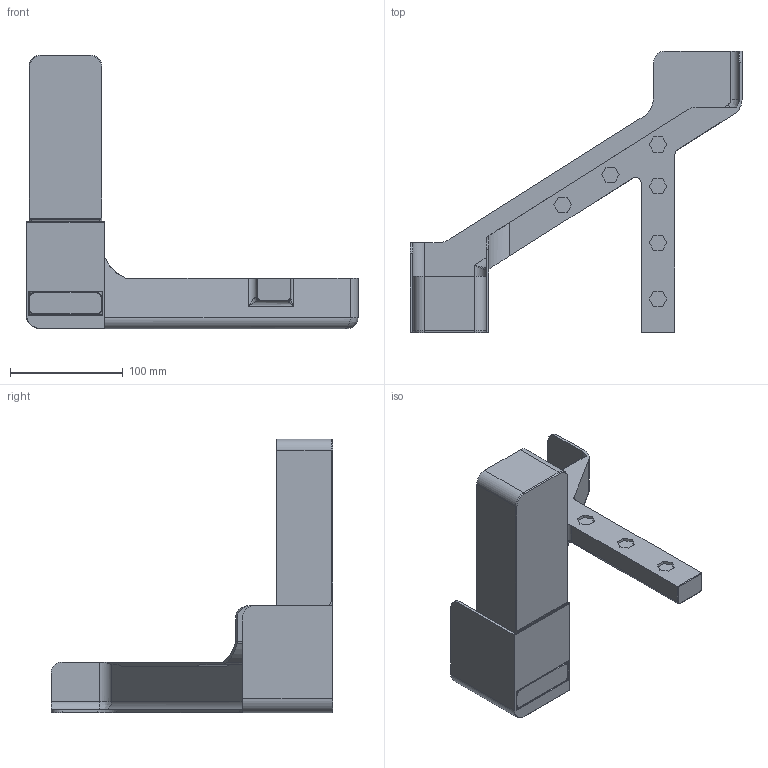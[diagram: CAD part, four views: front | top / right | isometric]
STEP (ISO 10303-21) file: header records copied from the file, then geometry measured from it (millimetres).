
FILE_DESCRIPTION(/* description */ (''),/* implementation_level */ '2;1');
FILE_NAME(/* name */ 'Poop Shute&Box.step',/* time_stamp */ '2025-12-08T11:50:39+09:00',/* author */ (''),/* organization */ (''),/* preprocessor_version */ 'ST-DEVELOPER v20.1',/* originating_system */ 'Autodesk Translation Framework v14.21.0.0',/* authorisation */ '');
FILE_SCHEMA (('AUTOMOTIVE_DESIGN { 1 0 10303 214 3 1 1 }'));
Length unit declared in the file: millimetre
Products named in the file (3): Poop Shute&Box; POOP_SHUTE; POOP_BOX
Assembly tree (2 placements, depth 2):
  Poop Shute&Box
    POOP_SHUTE
    POOP_BOX
Bounding box: 294.5 x 250 x 242.7 mm (x, y, z)
Volume: 431463.1 mm3; surface area: 207881.3 mm2
Topology: 2 solids, 2 shells, 194 faces, 497 edges, 310 vertices
Faces by surface type: plane 109, cylinder 56, bspline 17, cone 5, torus 5, sphere 2
Entity records: 6304 total; most frequent: CARTESIAN_POINT 1540, ORIENTED_EDGE 988, DIRECTION 960, EDGE_CURVE 494, LINE 344, VECTOR 344, VERTEX_POINT 310, AXIS2_PLACEMENT_3D 308
